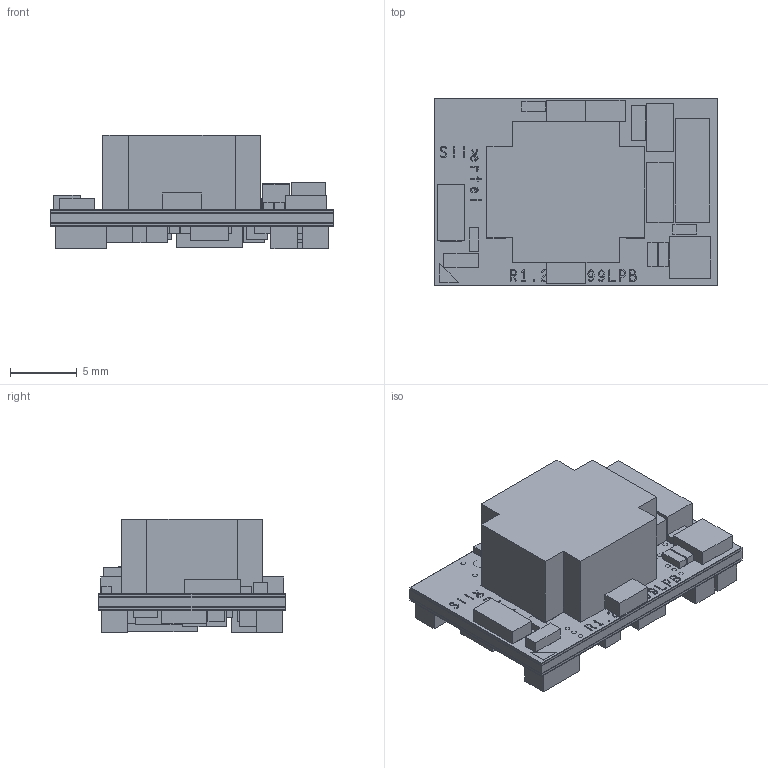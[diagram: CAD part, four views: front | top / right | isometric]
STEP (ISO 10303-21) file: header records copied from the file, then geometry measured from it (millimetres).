
FILE_DESCRIPTION(('FreeCAD Model'),'2;1');
FILE_NAME('Open CASCADE Shape Model','2024-11-04T11:55:51',(''),(''), 'Open CASCADE STEP processor 7.6','FreeCAD','Unknown');
FILE_SCHEMA(('AUTOMOTIVE_DESIGN { 1 0 10303 214 1 1 1 1 }'));
Products named in the file (1): Ag9900LPB_Simplified
Bounding box: 21.21 x 13.92 x 8.49 mm (x, y, z)
Surface area: 4281.2 mm2 (no closed solid volume)
Topology: 0 solids, 1597 shells, 1597 faces, 8792 edges, 8792 vertices
Faces by surface type: extrusion 1254, revolution 343
Entity records: 106573 total; most frequent: CARTESIAN_POINT 19609, DIRECTION 13346, VECTOR 10257, LINE 9003, ORIENTED_EDGE 8792, EDGE_CURVE 8792, VERTEX_POINT 8792, FACE_BOUND 2059
